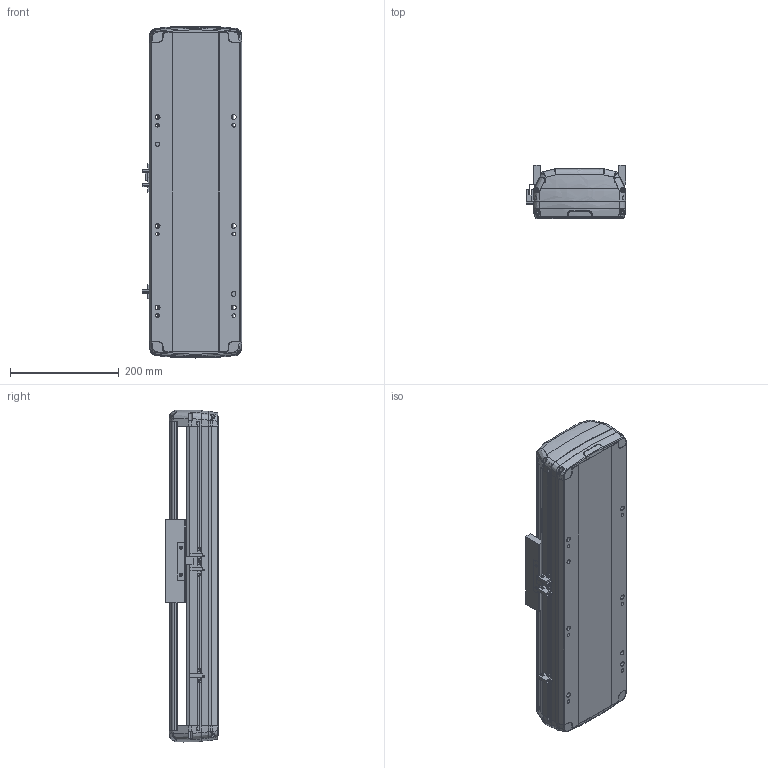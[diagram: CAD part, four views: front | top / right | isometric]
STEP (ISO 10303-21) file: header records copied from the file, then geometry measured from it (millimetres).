
FILE_DESCRIPTION (( 'STEP AP214' ), '1' );
FILE_NAME ('RTH17-XX-200-B-M40-C4.STEP', '2025-10-24T08:29:31', ( '' ), ( '' ), 'SwSTEP 2.0', 'SolidWorks 2018', '' );
FILE_SCHEMA (( 'AUTOMOTIVE_DESIGN' ));
Length unit declared in the file: millimetre
Products named in the file (7): N_RTH-L-012 感应片(外置)^RTH17-XX-XX-B-M40-C4（方程式）; N_RTH17-GY-001P^RTH17-XX-XX-B-M40-C4（方程式）; N_RTH17-E-004丝杆螺母连接座^RTH17-XX-XX-B-M40-C4（方程式）; N_OMRON EE-SX672 換覜ん^RTH17-XX-XX-B-M40-C4ㄗ源最宒ㄘ; N_RTH17-M-011底座^RTH17-XX-XX-B-M40-C4（方程式）; N_RTH17-M-007上盖^RTH17-XX-XX-B-M40-C4（方程式）; RTH17-XX-200-B-M40-C4
Assembly tree (9 placements, depth 2):
  RTH17-XX-200-B-M40-C4
    N_RTH17-M-011底座^RTH17-XX-XX-B-M40-C4（方程式）
    N_RTH17-M-007上盖^RTH17-XX-XX-B-M40-C4（方程式）
    N_OMRON EE-SX672 換覜ん^RTH17-XX-XX-B-M40-C4ㄗ源最宒ㄘ  x3
    N_RTH-L-012 感应片(外置)^RTH17-XX-XX-B-M40-C4（方程式）
    N_RTH17-E-004丝杆螺母连接座^RTH17-XX-XX-B-M40-C4（方程式）
    N_RTH17-GY-001P^RTH17-XX-XX-B-M40-C4（方程式）  x2
Bounding box: 183.5 x 97 x 610.04 mm (x, y, z)
Volume: 4718315.7 mm3; surface area: 712961.2 mm2
Topology: 7 solids, 11 shells, 1688 faces, 4718 edges, 3062 vertices
Faces by surface type: plane 805, bspline 420, cylinder 417, cone 28, torus 18
Entity records: 38742 total; most frequent: CARTESIAN_POINT 16281, ORIENTED_EDGE 4940, DIRECTION 3886, EDGE_CURVE 2474, VERTEX_POINT 1616, VECTOR 1382, LINE 1382, AXIS2_PLACEMENT_3D 1252
